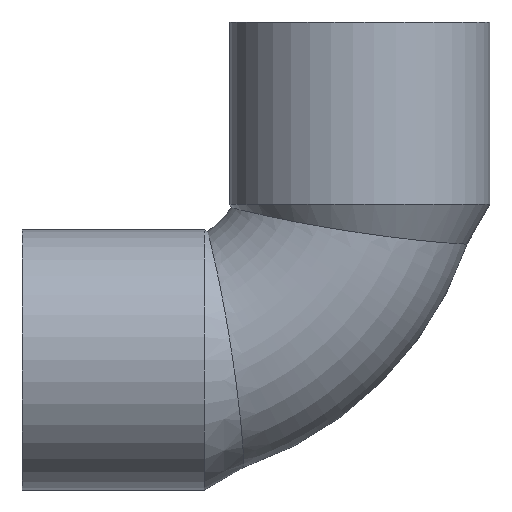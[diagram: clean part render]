
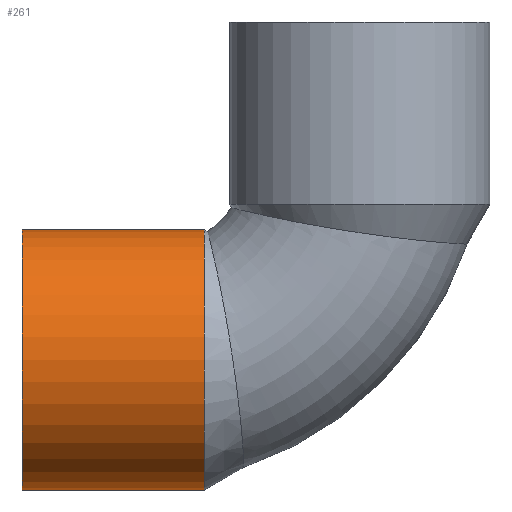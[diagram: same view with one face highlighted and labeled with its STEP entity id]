
A CAD part, top view. The second image highlights one B-rep face of the part: STEP entity #261.
In plain terms, the highlighted cylindrical face has radius 5.7 mm (diameter 11.4 mm), a partial arc.
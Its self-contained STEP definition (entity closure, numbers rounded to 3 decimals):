
#220=CARTESIAN_POINT('',(-0.806,-10.,0.0));
#221=DIRECTION('',(-1.0,0.,0.0));
#222=DIRECTION('',(0.0,-1.0,0.0));
#223=AXIS2_PLACEMENT_3D('',#220,#221,#222);
#224=CYLINDRICAL_SURFACE('',#223,5.7);
#225=CARTESIAN_POINT('',(3.188,-15.7,0.0));
#226=VERTEX_POINT('',#225);
#227=CARTESIAN_POINT('',(-4.8,-15.7,0.0));
#228=VERTEX_POINT('',#227);
#229=CARTESIAN_POINT('',(3.188,-15.7,0.0));
#230=DIRECTION('',(-1.0,0.0,0.0));
#231=VECTOR('',#230,7.988);
#232=LINE('',#229,#231);
#233=EDGE_CURVE('',#226,#228,#232,.T.);
#234=ORIENTED_EDGE('',*,*,#233,.F.);
#235=CARTESIAN_POINT('',(3.188,-4.3,0.));
#236=VERTEX_POINT('',#235);
#237=CARTESIAN_POINT('',(3.188,-10.,0.0));
#238=DIRECTION('',(-1.0,0.0,0.0));
#239=DIRECTION('',(0.0,-1.0,0.0));
#240=AXIS2_PLACEMENT_3D('',#237,#238,#239);
#241=CIRCLE('',#240,5.7);
#242=EDGE_CURVE('',#226,#236,#241,.T.);
#243=ORIENTED_EDGE('',*,*,#242,.T.);
#244=CARTESIAN_POINT('',(-4.8,-4.3,0.));
#245=VERTEX_POINT('',#244);
#246=CARTESIAN_POINT('',(-4.8,-4.3,0.));
#247=DIRECTION('',(1.0,0.0,0.0));
#248=VECTOR('',#247,7.988);
#249=LINE('',#246,#248);
#250=EDGE_CURVE('',#245,#236,#249,.T.);
#251=ORIENTED_EDGE('',*,*,#250,.F.);
#252=CARTESIAN_POINT('',(-4.8,-10.,0.0));
#253=DIRECTION('',(-1.0,0.0,0.0));
#254=DIRECTION('',(0.0,-1.0,0.0));
#255=AXIS2_PLACEMENT_3D('',#252,#253,#254);
#256=CIRCLE('',#255,5.7);
#257=EDGE_CURVE('',#228,#245,#256,.T.);
#258=ORIENTED_EDGE('',*,*,#257,.F.);
#259=EDGE_LOOP('',(#234,#243,#251,#258));
#260=FACE_OUTER_BOUND('',#259,.T.);
#261=ADVANCED_FACE('',(#260),#224,.T.);
